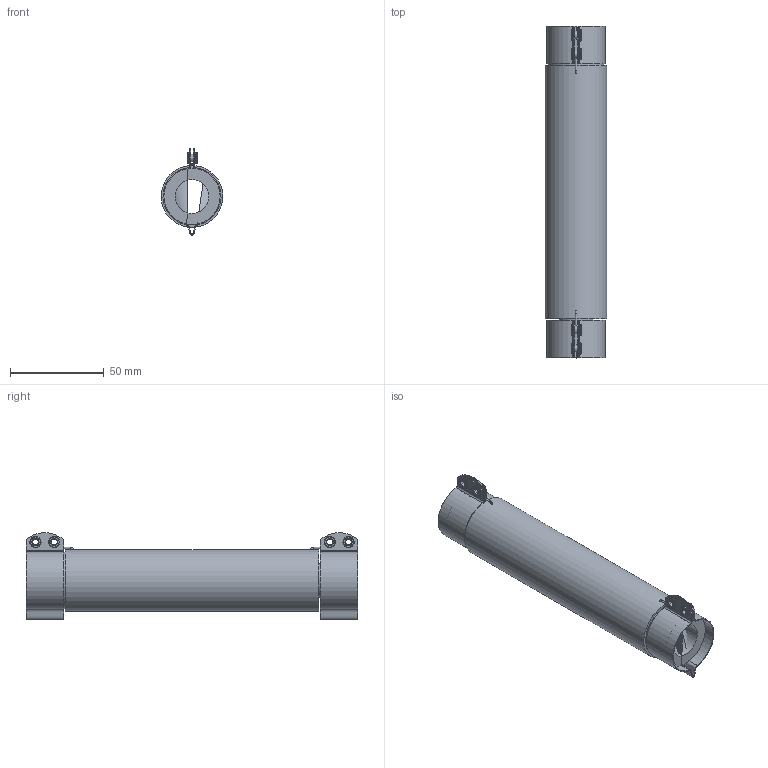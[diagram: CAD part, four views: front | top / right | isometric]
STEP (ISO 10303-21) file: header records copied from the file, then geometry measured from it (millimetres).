
FILE_DESCRIPTION(/* description */ (''),/* implementation_level */ '2;1');
FILE_NAME(/* name */ 'C:\_Vault\Dati\CATALOGO\RC-RS\TF\RS1160.stp',/* time_stamp */ '2014-01-29T14:41:21+01:00',/* author */ ('stefano'),/* organization */ (''),/* preprocessor_version */ 'ST-DEVELOPER v15.2',/* originating_system */ 'Autodesk Inventor 2014',/* authorisation */ '');
FILE_SCHEMA (('AUTOMOTIVE_DESIGN { 1 0 10303 214 3 1 1 }'));
Length unit declared in the file: millimetre
Products named in the file (1): RS1160
Bounding box: 32.97 x 177 x 46.13 mm (x, y, z)
Volume: 90135.5 mm3; surface area: 33895.1 mm2
Topology: 1 solids, 5 shells, 123 faces, 284 edges, 185 vertices
Faces by surface type: cylinder 53, plane 44, torus 18, bspline 8
Full cylindrical faces by diameter (mm): 0.4 x2, 0.8 x4, 3.2 x4, 4.2 x8, 6 x8, 18 x1, 30 x3, 33 x1
Entity records: 3887 total; most frequent: CARTESIAN_POINT 1087, DIRECTION 554, ORIENTED_EDGE 456, AXIS2_PLACEMENT_3D 239, EDGE_CURVE 228, EDGE_LOOP 208, VERTEX_POINT 176, CIRCLE 124
